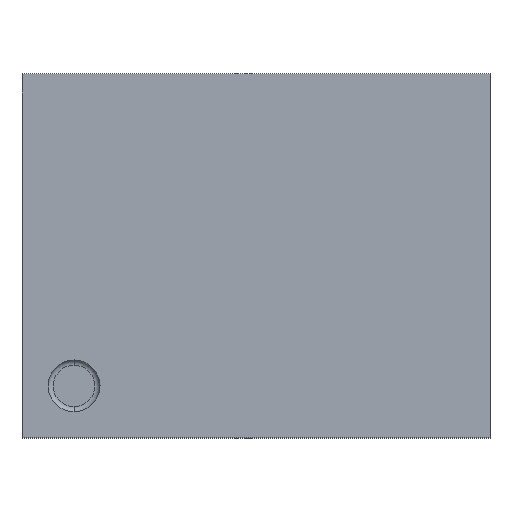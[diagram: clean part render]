
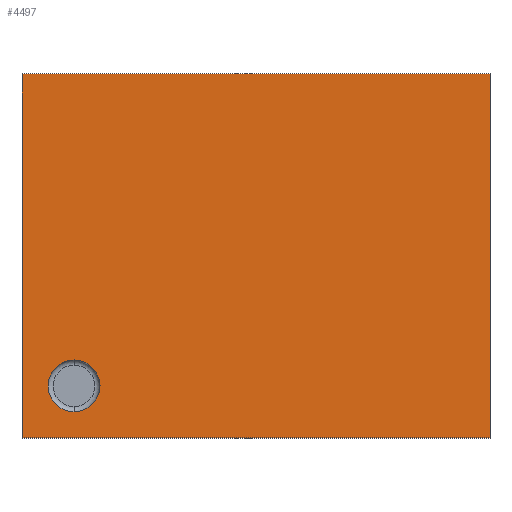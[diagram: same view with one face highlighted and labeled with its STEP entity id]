
A CAD part, top view. The second image highlights one B-rep face of the part: STEP entity #4497.
In plain terms, the highlighted planar face has unit normal (0, 0, 1).
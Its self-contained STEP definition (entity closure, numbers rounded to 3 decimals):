
#4319 = CARTESIAN_POINT ( 'NONE',  ( -1.75, -1., 0.6 ) ) ;
#4320 = VERTEX_POINT ( 'NONE', #4319 ) ;
#4328 = CARTESIAN_POINT ( 'NONE',  ( -1.75, -1.5, 0.6 ) ) ;
#4329 = VERTEX_POINT ( 'NONE', #4328 ) ;
#4330 = CARTESIAN_POINT ( 'NONE',  ( -1.75, -1.25, 0.6 ) ) ;
#4331 = DIRECTION ( 'NONE',  ( 0., 0., 1. ) ) ;
#4332 = DIRECTION ( 'NONE',  ( 0., -1., 0. ) ) ;
#4333 = AXIS2_PLACEMENT_3D ( 'NONE', #4330, #4331, #4332 ) ;
#4334 = CIRCLE ( 'NONE', #4333, 0.25) ;
#4335 = EDGE_CURVE ( 'NONE', #4320, #4329, #4334, .T. ) ;
#4362 = CARTESIAN_POINT ( 'NONE',  ( -2.25, -1.75, 0.6 ) ) ;
#4363 = VERTEX_POINT ( 'NONE', #4362 ) ;
#4370 = CARTESIAN_POINT ( 'NONE',  ( -2.25, 1.75, 0.6 ) ) ;
#4371 = VERTEX_POINT ( 'NONE', #4370 ) ;
#4372 = CARTESIAN_POINT ( 'NONE',  ( -2.25, -1.75, 0.6 ) ) ;
#4373 = DIRECTION ( 'NONE',  ( 0., -1., 0. ) ) ;
#4374 = VECTOR ( 'NONE', #4373, 1000. ) ;
#4375 = LINE ( 'NONE', #4372, #4374 ) ;
#4376 = EDGE_CURVE ( 'NONE', #4371, #4363, #4375, .T. ) ;
#4400 = CARTESIAN_POINT ( 'NONE',  ( 2.25, -1.75, 0.6 ) ) ;
#4401 = VERTEX_POINT ( 'NONE', #4400 ) ;
#4408 = CARTESIAN_POINT ( 'NONE',  ( 2.25, -1.75, 0.6 ) ) ;
#4409 = DIRECTION ( 'NONE',  ( 1., 0., 0. ) ) ;
#4410 = VECTOR ( 'NONE', #4409, 1000. ) ;
#4411 = LINE ( 'NONE', #4408, #4410 ) ;
#4412 = EDGE_CURVE ( 'NONE', #4363, #4401, #4411, .T. ) ;
#4431 = CARTESIAN_POINT ( 'NONE',  ( 2.25, 1.75, 0.6 ) ) ;
#4432 = VERTEX_POINT ( 'NONE', #4431 ) ;
#4439 = CARTESIAN_POINT ( 'NONE',  ( 2.25, -1.75, 0.6 ) ) ;
#4440 = DIRECTION ( 'NONE',  ( 0., 1., 0. ) ) ;
#4441 = VECTOR ( 'NONE', #4440, 1000. ) ;
#4442 = LINE ( 'NONE', #4439, #4441 ) ;
#4443 = EDGE_CURVE ( 'NONE', #4401, #4432, #4442, .T. ) ;
#4461 = CARTESIAN_POINT ( 'NONE',  ( 2.25, 1.75, 0.6 ) ) ;
#4462 = DIRECTION ( 'NONE',  ( -1., 0., 0. ) ) ;
#4463 = VECTOR ( 'NONE', #4462, 1000. ) ;
#4464 = LINE ( 'NONE', #4461, #4463 ) ;
#4465 = EDGE_CURVE ( 'NONE', #4432, #4371, #4464, .T. ) ;
#4476 = CARTESIAN_POINT ( 'NONE',  ( -1.75, -1.25, 0.6 ) ) ;
#4477 = DIRECTION ( 'NONE',  ( 0., 0., 1. ) ) ;
#4478 = DIRECTION ( 'NONE',  ( 0., -1., 0. ) ) ;
#4479 = AXIS2_PLACEMENT_3D ( 'NONE', #4476, #4477, #4478 ) ;
#4480 = CIRCLE ( 'NONE', #4479, 0.25) ;
#4481 = EDGE_CURVE ( 'NONE', #4329, #4320, #4480, .T. ) ;
#4482 = ORIENTED_EDGE ( 'NONE', *, *, #4481, .F. ) ;
#4483 = ORIENTED_EDGE ( 'NONE', *, *, #4335, .F. ) ;
#4484 = EDGE_LOOP ( 'NONE', ( #4482, #4483 ) ) ;
#4485 = FACE_BOUND ( 'NONE', #4484, .T. ) ;
#4486 = ORIENTED_EDGE ( 'NONE', *, *, #4376, .T. ) ;
#4487 = ORIENTED_EDGE ( 'NONE', *, *, #4412, .T. ) ;
#4488 = ORIENTED_EDGE ( 'NONE', *, *, #4443, .T. ) ;
#4489 = ORIENTED_EDGE ( 'NONE', *, *, #4465, .T. ) ;
#4490 = EDGE_LOOP ( 'NONE', ( #4486, #4487, #4488, #4489 ) ) ;
#4491 = FACE_OUTER_BOUND ( 'NONE', #4490, .T. ) ;
#4492 = CARTESIAN_POINT ( 'NONE',  ( 0., 0., 0.6 ) ) ;
#4493 = DIRECTION ( 'NONE',  ( 0., 0., 1. ) ) ;
#4494 = DIRECTION ( 'NONE',  ( 0., -1., 0. ) ) ;
#4495 = AXIS2_PLACEMENT_3D ( 'NONE', #4492, #4493, #4494 ) ;
#4496 = PLANE ( 'NONE', #4495 ) ;
#4497 = ADVANCED_FACE ( 'NONE', ( #4485, #4491 ), #4496, .T. ) ;
